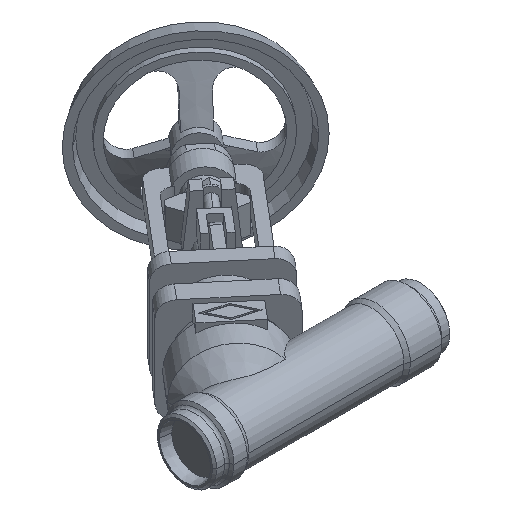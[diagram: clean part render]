
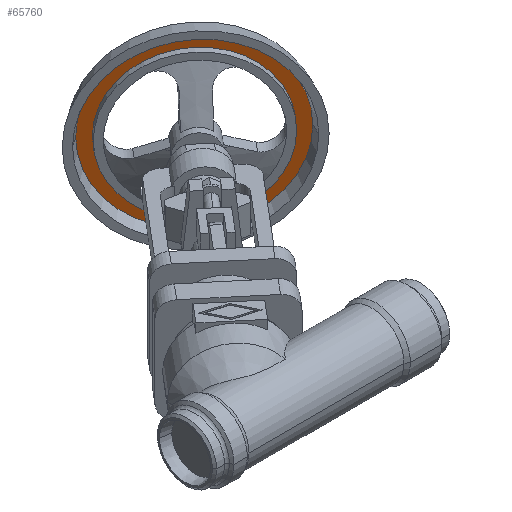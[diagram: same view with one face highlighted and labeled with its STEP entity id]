
A CAD part, isometric view. The second image highlights one B-rep face of the part: STEP entity #65760.
In plain terms, the highlighted planar face has unit normal (-0.643, -0.766, 0).
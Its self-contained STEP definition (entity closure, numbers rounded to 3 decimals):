
#65210=CARTESIAN_POINT('',(293.852,185.944,
0.));
#65220=VERTEX_POINT('',#65210);
#65250=CARTESIAN_POINT('',(239.379,231.652,0.));
#65260=DIRECTION('',(0.643,0.766,
0.));
#65270=DIRECTION('',(-0.766,0.643,
0.));
#65280=AXIS2_PLACEMENT_3D('',#65250,#65260,#65270);
#65290=CIRCLE('',#65280,71.109);
#65300=CARTESIAN_POINT('',(184.906,277.36,
0.));
#65310=VERTEX_POINT('',#65300);
#65320=EDGE_CURVE('',#65310,#65220,#65290,.T.);
#65510=CARTESIAN_POINT('',(188.778,274.111,
0.));
#65520=DIRECTION('',(-0.643,-0.766,0.));
#65530=DIRECTION('',(0.766,-0.643,
0.));
#65540=AXIS2_PLACEMENT_3D('',#65510,#65520,#65530);
#65550=PLANE('',#65540);
#65560=ORIENTED_EDGE('',*,*,#65320,.F.);
#65570=EDGE_CURVE('',#65220,#65310,#65290,.T.);
#65580=ORIENTED_EDGE('',*,*,#65570,.F.);
#65590=EDGE_LOOP('',(#65580,#65560));
#65600=FACE_OUTER_BOUND('',#65590,.T.);
#65610=CARTESIAN_POINT('',(239.379,231.652,0.));
#65620=DIRECTION('',(0.643,0.766,
0.));
#65630=DIRECTION('',(-0.766,0.643,
0.));
#65640=AXIS2_PLACEMENT_3D('',#65610,#65620,#65630);
#65650=CIRCLE('',#65640,61.);
#65660=CARTESIAN_POINT('',(192.65,270.862,
0.));
#65670=VERTEX_POINT('',#65660);
#65680=CARTESIAN_POINT('',(286.108,192.442,
0.));
#65690=VERTEX_POINT('',#65680);
#65700=EDGE_CURVE('',#65670,#65690,#65650,.T.);
#65710=ORIENTED_EDGE('',*,*,#65700,.T.);
#65720=EDGE_CURVE('',#65690,#65670,#65650,.T.);
#65730=ORIENTED_EDGE('',*,*,#65720,.T.);
#65740=EDGE_LOOP('',(#65730,#65710));
#65750=FACE_BOUND('',#65740,.T.);
#65760=ADVANCED_FACE('',(#65600,#65750),#65550,.T.);
